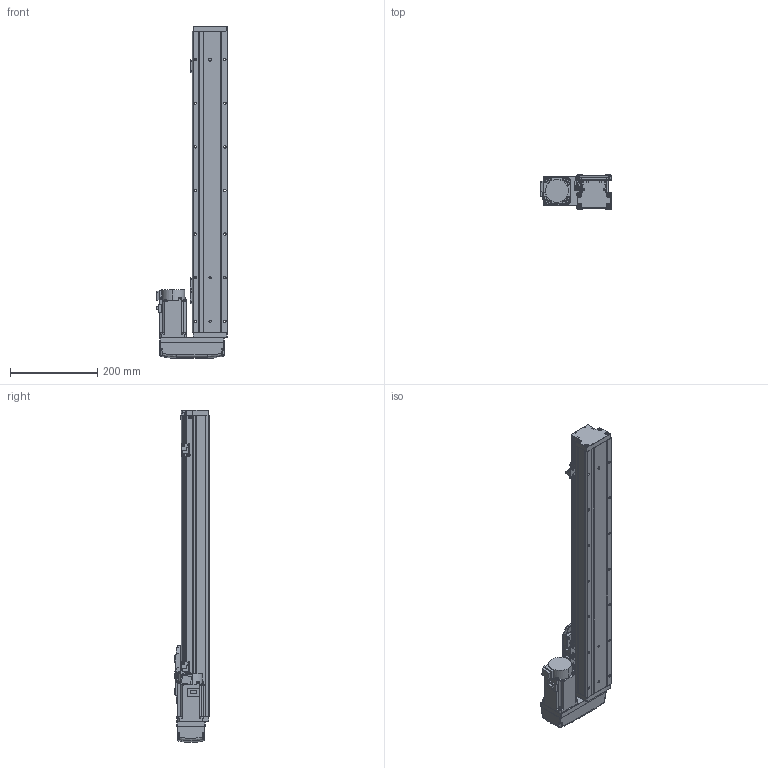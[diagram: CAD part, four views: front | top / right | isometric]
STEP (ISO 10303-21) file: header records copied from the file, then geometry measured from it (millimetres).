
FILE_DESCRIPTION (( 'STEP AP203' ), '1' );
FILE_NAME ('GTH8-500-BL-M20-C4.step', '2022-09-23T01:00:33', ( '微软用户' ), ( '微软中国' ), 'SwSTEP 2.0', 'SolidWorks 2020', '' );
FILE_SCHEMA (( 'CONFIG_CONTROL_DESIGN' ));
Length unit declared in the file: millimetre
Products named in the file (18): GTH50-024; GTH8-500-BL-M20-C4; GTH80-013; GTH50-023; GBT 70.3-M3℅6; GBT96.1-2002 3×0.8; GTH80-022; BTH-M3X5X6; GTH80-001_500; GBT 70.1-M3℅6; hg-kn43j_-s100_; GTH80-003; GBT 70.1-M4×16; CTHA86-015-1_CTHA86-015-2; GTH80-004; GTH80-028; CTHA86-033_M40B; GTH80-006
Assembly tree (57 placements, depth 2):
  GTH8-500-BL-M20-C4
    GTH80-001_500
    GTH80-003
    GTH80-004
    GTH80-006
    GTH80-013
    GBT 70.3-M3℅6  x4
    GTH80-022
    GBT 70.1-M3℅6  x14
    GBT 70.1-M4×16  x8
    GTH80-028  x2
    GTH50-024  x3
    GTH50-023  x3
    GBT96.1-2002 3×0.8  x6
    BTH-M3X5X6  x8
    hg-kn43j_-s100_
    CTHA86-015-1_CTHA86-015-2
    CTHA86-033_M40B
Bounding box: 164.8 x 78 x 761 mm (x, y, z)
Volume: 3978255.8 mm3; surface area: 429577.9 mm2
Topology: 59 solids, 59 shells, 2236 faces, 5163 edges, 3163 vertices
Faces by surface type: plane 1187, cylinder 607, cone 260, torus 166, bspline 8, sphere 8
Entity records: 40774 total; most frequent: CARTESIAN_POINT 7169, DIRECTION 6621, ORIENTED_EDGE 6144, EDGE_CURVE 3072, AXIS2_PLACEMENT_3D 2313, VECTOR 1995, LINE 1995, VERTEX_POINT 1938
